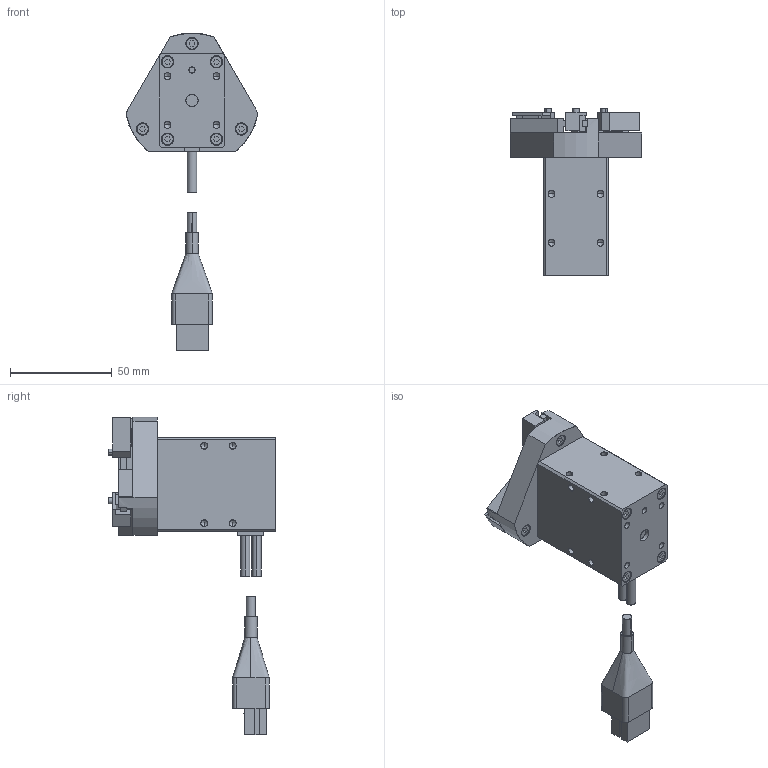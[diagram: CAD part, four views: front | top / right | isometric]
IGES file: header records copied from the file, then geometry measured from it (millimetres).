
Start section: SolidWorks IGES file using analytic representation for surfaces
Global section: file name: G:\SW2007図面\TAIYO\電動機器３Ｄ\電動グリッパ　3爪\ESG1-ST-2820.IGS; native system: SolidWorks 2007; preprocessor: SolidWorks 2007; author: 風音庵,,1; organization: 1; date: 090212.163805; units: millimetre
Bounding box: 64.84 x 82 x 155.89 mm (x, y, z)
Surface area: 31972.9 mm2 (no closed solid volume)
Topology: 0 solids, 0 shells, 462 faces, 4581 edges, 4541 vertices
Faces by surface type: bspline 301, revolution 161
